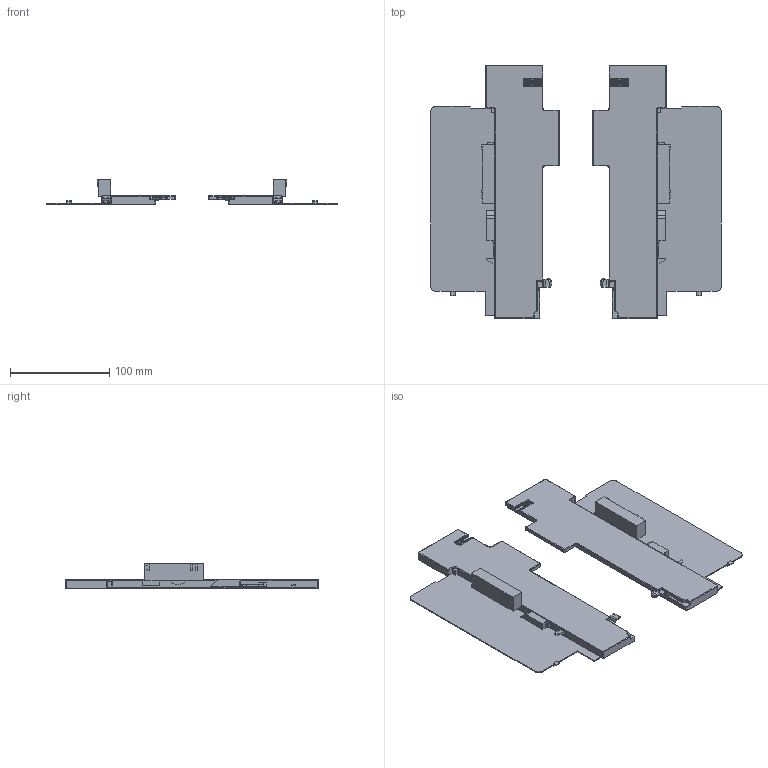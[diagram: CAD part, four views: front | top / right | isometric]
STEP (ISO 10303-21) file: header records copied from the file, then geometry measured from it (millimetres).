
FILE_DESCRIPTION(('STEP AP242'),'1');
FILE_NAME('OPO_53.499.15_volu_3d.stp','2025-11-08T20:32:58',(' '),(' '),'Spatial InterOp 3D',' ',' ');
FILE_SCHEMA(('AP242_MANAGED_MODEL_BASED_3D_ENGINEERING_MIM_LF {1 0 10303 442 1 1 4}'));
Length unit declared in the file: millimetre
Products named in the file (1): 1
Bounding box: 293 x 255.1 x 24.65 mm (x, y, z)
Volume: 270758.9 mm3; surface area: 125517.6 mm2
Topology: 2 solids, 2 shells, 606 faces, 1614 edges, 1022 vertices
Faces by surface type: plane 278, cylinder 220, bspline 56, torus 48, cone 4
Entity records: 24746 total; most frequent: CARTESIAN_POINT 4770, ORIENTED_EDGE 3228, DIRECTION 3164, EDGE_CURVE 1614, AXIS2_PLACEMENT_3D 1106, VERTEX_POINT 1022, LINE 952, VECTOR 952
